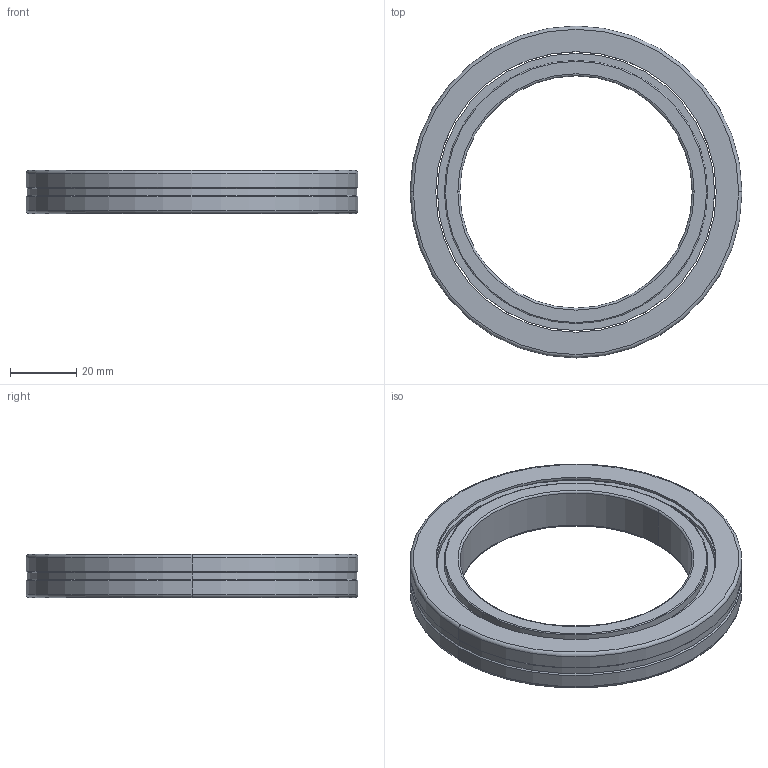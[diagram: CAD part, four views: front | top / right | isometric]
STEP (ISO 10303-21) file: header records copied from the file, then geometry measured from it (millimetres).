
FILE_DESCRIPTION((''),'2;1');
FILE_NAME('CRBH7013','2017-07-28T',('Administrator'),(''),'PRO/ENGINEER BY PARAMETRIC TECHNOLOGY CORPORATION, 2010180','PRO/ENGINEER BY PARAMETRIC TECHNOLOGY CORPORATION, 2010180','');
FILE_SCHEMA(('AUTOMOTIVE_DESIGN_CC2 { 1 2 10303 214 -1 1 5 2 }'));
Length unit declared in the file: millimetre
Products named in the file (1): CRBH7013
Bounding box: 100 x 100 x 13 mm (x, y, z)
Volume: 41944.8 mm3; surface area: 24476.9 mm2
Topology: 2 solids, 2 shells, 62 faces, 1562 edges, 1512 vertices
Faces by surface type: cylinder 28, torus 12, cone 12, plane 10
Entity records: 15084 total; most frequent: DIRECTION 1778, CARTESIAN_POINT 1697, PRESENTATION_STYLE_ASSIGNMENT 1496, STYLED_ITEM 1496, VECTOR 1472, LINE 1472, CURVE_STYLE 1439, TRIMMED_CURVE 1438
